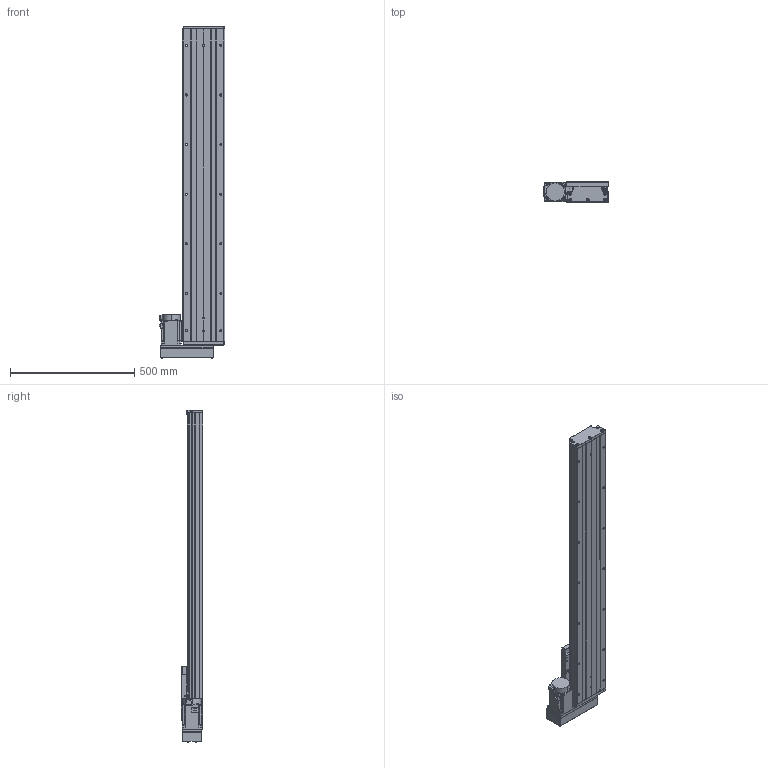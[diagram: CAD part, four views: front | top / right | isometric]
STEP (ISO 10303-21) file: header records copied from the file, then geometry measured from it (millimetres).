
FILE_DESCRIPTION (( 'STEP AP203' ), '1' );
FILE_NAME ('GTH17-1000-BL-M75-C4.step', '2023-06-30T11:58:41', ( '微软用户' ), ( '微软中国' ), 'SwSTEP 2.0', 'SolidWorks 2020', '' );
FILE_SCHEMA (( 'CONFIG_CONTROL_DESIGN' ));
Length unit declared in the file: millimetre
Products named in the file (19): GB1155-6X6; GBT 70.1-M6¡Á20_M6¡Á20; GTH17-033; CTHA60-017; GTH17-031; GTH17-1000-BL-M75-C4; EE_SX911P_R; GBT 70.2-M3¡Á5_M3¡Á6; GTH17-001_1000; CTHA60-016; す晦芛蹟隊 M3℅5; GTH17-002_GTH17-002; GBT 70.1-M3℅5; HG-KN73J-S100; GTH17-004; GBT 70.2-M4¡Á45_M4¡Á35; GTH17-005; GBT77-2000 M3×3; GTH17-015-2_CTHA86-015-2
Assembly tree (58 placements, depth 2):
  GTH17-1000-BL-M75-C4
    GTH17-001_1000
    GTH17-002_GTH17-002
    GTH17-004
    GTH17-005
    GB1155-6X6  x2
    CTHA60-017  x3
    EE_SX911P_R  x3
    CTHA60-016  x2
    GBT 70.1-M3℅5  x6
    GBT77-2000 M3×3  x6
    GBT 70.1-M6¡Á20_M6¡Á20  x10
    GTH17-031
    GBT 70.2-M3¡Á5_M3¡Á6  x8
    す晦芛蹟隊 M3℅5  x6
    HG-KN73J-S100
    GBT 70.2-M4¡Á45_M4¡Á35  x4
    GTH17-015-2_CTHA86-015-2
    GTH17-033
Bounding box: 264.3 x 87 x 1338.2 mm (x, y, z)
Volume: 10923430.6 mm3; surface area: 1461762.1 mm2
Topology: 61 solids, 61 shells, 2459 faces, 5869 edges, 3635 vertices
Faces by surface type: plane 1312, cylinder 674, cone 297, torus 124, sphere 32, bspline 20
Entity records: 45046 total; most frequent: CARTESIAN_POINT 10416, DIRECTION 6541, ORIENTED_EDGE 6450, EDGE_CURVE 3225, AXIS2_PLACEMENT_3D 2238, VECTOR 2065, LINE 2065, VERTEX_POINT 2047
